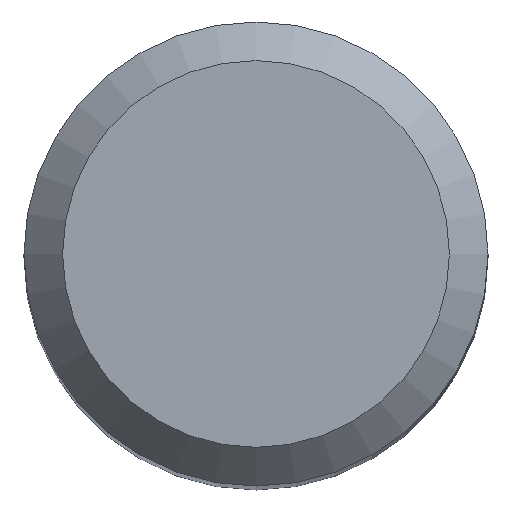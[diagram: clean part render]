
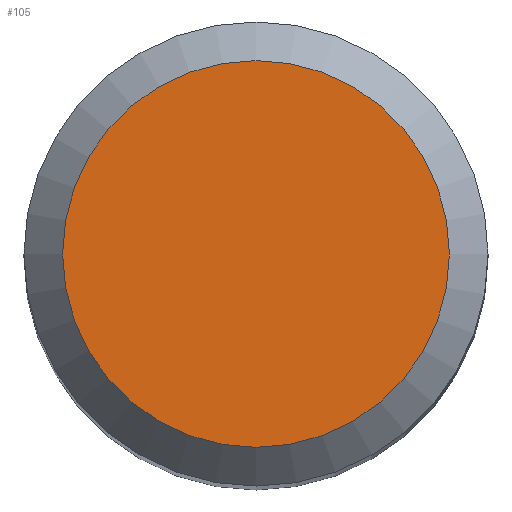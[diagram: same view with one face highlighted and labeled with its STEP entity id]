
A CAD part, top view. The second image highlights one B-rep face of the part: STEP entity #105.
In plain terms, the highlighted planar face has unit normal (0, 0, 1).
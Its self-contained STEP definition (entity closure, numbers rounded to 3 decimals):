
#105=ADVANCED_FACE('',(#112),#110,.T.);
#110=PLANE('',#144);
#112=FACE_OUTER_BOUND('',#114,.T.);
#114=EDGE_LOOP('',(#122));
#122=ORIENTED_EDGE('',*,*,#134,.T.);
#130=VERTEX_POINT('',#174);
#134=EDGE_CURVE('',#130,#130,#138,.T.);
#138=CIRCLE('',#143,5.);
#143=AXIS2_PLACEMENT_3D('',#173,#154,#155);
#144=AXIS2_PLACEMENT_3D('',#175,#156,#157);
#154=DIRECTION('',(0.,0.,1.));
#155=DIRECTION('',(1.,0.,0.));
#156=DIRECTION('',(0.,0.,1.));
#157=DIRECTION('',(1.,0.,0.));
#173=CARTESIAN_POINT('',(0.,0.,60.));
#174=CARTESIAN_POINT('',(5.,0.,60.));
#175=CARTESIAN_POINT('',(0.,0.,60.));
